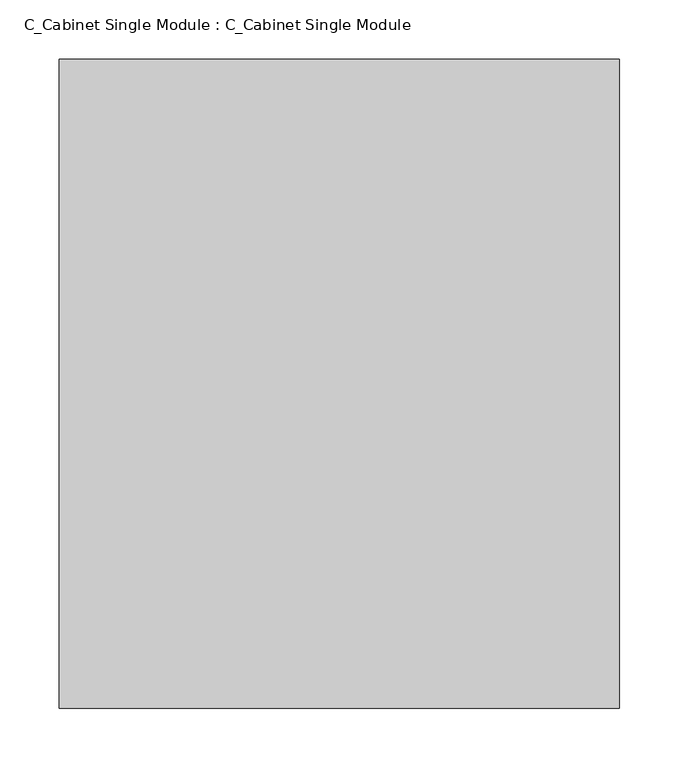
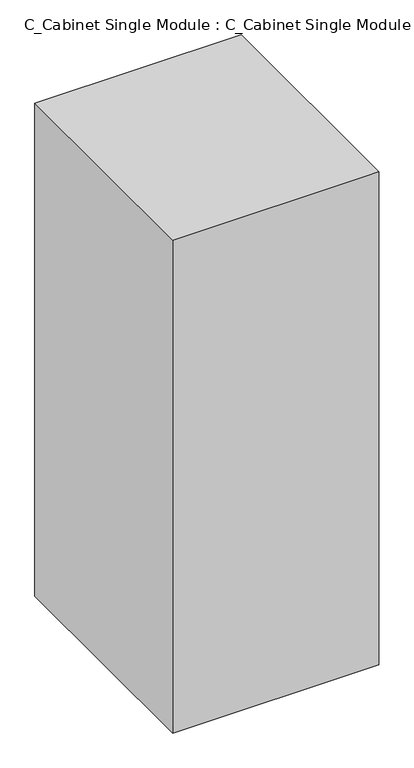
"""IFC4 building model written with IfcOpenShell, lengths in millimetres: furniture geometry, C_Cabinet Single Module : C_Cabinet Single Module."""

from ifc_helpers import new_model, si_unit, origin, origin_with_axes, place, context, project, spatial, polyline, outline, extrude, source, transform, mapped, element, save


def c_cabinet_single_module_c_cabinet_single_module_e27e7181(model_context):
    return source(origin(), model_context, "Body", "SweptSolid", [
        extrude(outline(polyline([(235.74375, 0.0), (235.74375, -546.1), (-235.74375, -546.1), (-235.74375, 0.0), (235.74375, 0.0)])), origin_with_axes(), (0.0, 0.0, 1.0), 1192.2125),
    ])


if __name__ == "__main__":
    model = new_model("IFC4")
    model_context = context("Model", 3, world=origin())
    ifc_project = project(units=[si_unit("LENGTHUNIT", "METRE", prefix="MILLI")], contexts=[model_context])
    site = spatial("IfcSite", under=ifc_project)
    building = spatial("IfcBuilding", under=site)
    placement = place(None, origin())
    c_cabinet_single_module_c_cabinet_single_module_shape = c_cabinet_single_module_c_cabinet_single_module_e27e7181(model_context)
    element("IfcFurniture", 1, ObjectType="C_Cabinet Single Module : C_Cabinet Single Module", at=placement, inside=building, context=model_context, shape_type="MappedRepresentation", body=[
        mapped(c_cabinet_single_module_c_cabinet_single_module_shape, transform((0.0, 0.0, 0.0), x_axis=(1.0, 0.0, 0.0), y_axis=(0.0, 1.0, 0.0), z_axis=(0.0, 0.0, 1.0))),
    ])
    save(model, "model.ifc")
